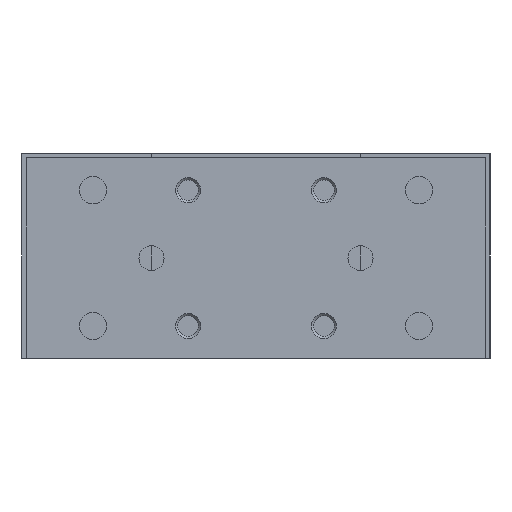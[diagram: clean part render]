
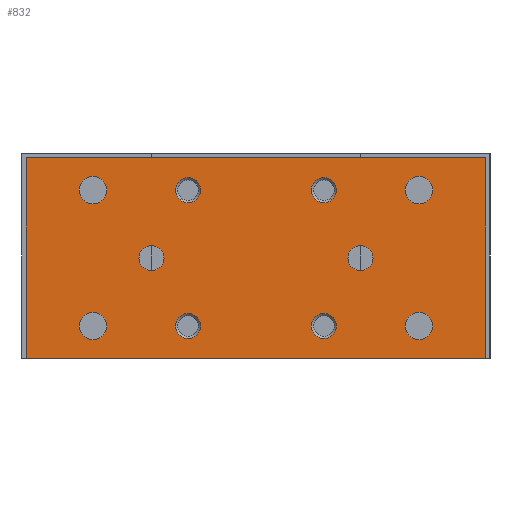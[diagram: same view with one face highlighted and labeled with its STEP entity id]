
A CAD part, left-side view. The second image highlights one B-rep face of the part: STEP entity #832.
In plain terms, the highlighted planar face has unit normal (-1, 0, 0).
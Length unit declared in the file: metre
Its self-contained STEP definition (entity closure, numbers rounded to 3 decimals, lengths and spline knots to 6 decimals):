
#832 = ADVANCED_FACE( '', ( #1889, #1890, #1891, #1892, #1893, #1894, #1895, #1896, #1897, #1898, #1899 ), #1900, .F. );
#1889 = FACE_BOUND( '', #2957, .T. );
#1890 = FACE_BOUND( '', #2958, .T. );
#1891 = FACE_BOUND( '', #2959, .T. );
#1892 = FACE_BOUND( '', #2960, .T. );
#1893 = FACE_BOUND( '', #2961, .T. );
#1894 = FACE_BOUND( '', #2962, .T. );
#1895 = FACE_BOUND( '', #2963, .T. );
#1896 = FACE_BOUND( '', #2964, .T. );
#1897 = FACE_BOUND( '', #2965, .T. );
#1898 = FACE_BOUND( '', #2966, .T. );
#1899 = FACE_OUTER_BOUND( '', #2967, .T. );
#1900 = PLANE( '', #2968 );
#2957 = EDGE_LOOP( '', ( #4809 ) );
#2958 = EDGE_LOOP( '', ( #4810 ) );
#2959 = EDGE_LOOP( '', ( #4811 ) );
#2960 = EDGE_LOOP( '', ( #4812 ) );
#2961 = EDGE_LOOP( '', ( #4813 ) );
#2962 = EDGE_LOOP( '', ( #4814 ) );
#2963 = EDGE_LOOP( '', ( #4815 ) );
#2964 = EDGE_LOOP( '', ( #4816 ) );
#2965 = EDGE_LOOP( '', ( #4817 ) );
#2966 = EDGE_LOOP( '', ( #4818 ) );
#2967 = EDGE_LOOP( '', ( #4819, #4820, #4821, #4822 ) );
#2968 = AXIS2_PLACEMENT_3D( '', #4823, #4824, #4825 );
#4809 = ORIENTED_EDGE( '', *, *, #5189, .T. );
#4810 = ORIENTED_EDGE( '', *, *, #5005, .T. );
#4811 = ORIENTED_EDGE( '', *, *, #4908, .T. );
#4812 = ORIENTED_EDGE( '', *, *, #5008, .T. );
#4813 = ORIENTED_EDGE( '', *, *, #5423, .F. );
#4814 = ORIENTED_EDGE( '', *, *, #5425, .T. );
#4815 = ORIENTED_EDGE( '', *, *, #5511, .T. );
#4816 = ORIENTED_EDGE( '', *, *, #4922, .F. );
#4817 = ORIENTED_EDGE( '', *, *, #4899, .F. );
#4818 = ORIENTED_EDGE( '', *, *, #5055, .T. );
#4819 = ORIENTED_EDGE( '', *, *, #5182, .T. );
#4820 = ORIENTED_EDGE( '', *, *, #5473, .T. );
#4821 = ORIENTED_EDGE( '', *, *, #5144, .T. );
#4822 = ORIENTED_EDGE( '', *, *, #5493, .T. );
#4823 = CARTESIAN_POINT( '', ( -0.07925, -0.055, -0.049 ) );
#4824 = DIRECTION( '', ( 1., 0., 0. ) );
#4825 = DIRECTION( '', ( 0., 1., 0. ) );
#4899 = EDGE_CURVE( '', #5606, #5606, #5607, .T. );
#4908 = EDGE_CURVE( '', #5622, #5622, #5623, .T. );
#4922 = EDGE_CURVE( '', #5645, #5645, #5646, .T. );
#5005 = EDGE_CURVE( '', #5783, #5783, #5784, .T. );
#5008 = EDGE_CURVE( '', #5788, #5788, #5789, .T. );
#5055 = EDGE_CURVE( '', #5864, #5864, #5865, .T. );
#5144 = EDGE_CURVE( '', #6011, #6009, #6012, .T. );
#5182 = EDGE_CURVE( '', #6070, #6068, #6071, .T. );
#5189 = EDGE_CURVE( '', #6081, #6081, #6082, .T. );
#5423 = EDGE_CURVE( '', #6399, #6399, #6400, .T. );
#5425 = EDGE_CURVE( '', #6402, #6402, #6403, .T. );
#5473 = EDGE_CURVE( '', #6068, #6011, #6455, .T. );
#5493 = EDGE_CURVE( '', #6009, #6070, #6472, .T. );
#5511 = EDGE_CURVE( '', #6491, #6491, #6492, .T. );
#5606 = VERTEX_POINT( '', #6605 );
#5607 = CIRCLE( '', #6606, 0.003 );
#5622 = VERTEX_POINT( '', #6625 );
#5623 = CIRCLE( '', #6626, 0.0033 );
#5645 = VERTEX_POINT( '', #6651 );
#5646 = CIRCLE( '', #6652, 0.003 );
#5783 = VERTEX_POINT( '', #6821 );
#5784 = CIRCLE( '', #6822, 0.0033 );
#5788 = VERTEX_POINT( '', #6826 );
#5789 = CIRCLE( '', #6827, 0.0033 );
#5864 = VERTEX_POINT( '', #6948 );
#5865 = CIRCLE( '', #6949, 0.003 );
#6009 = VERTEX_POINT( '', #7113 );
#6011 = VERTEX_POINT( '', #7116 );
#6012 = LINE( '', #7117, #7118 );
#6068 = VERTEX_POINT( '', #7215 );
#6070 = VERTEX_POINT( '', #7218 );
#6071 = LINE( '', #7219, #7220 );
#6081 = VERTEX_POINT( '', #7264 );
#6082 = CIRCLE( '', #7265, 0.0033 );
#6399 = VERTEX_POINT( '', #7734 );
#6400 = CIRCLE( '', #7735, 0.003 );
#6402 = VERTEX_POINT( '', #7737 );
#6403 = CIRCLE( '', #7738, 0.003 );
#6455 = LINE( '', #7796, #7797 );
#6472 = LINE( '', #7814, #7815 );
#6491 = VERTEX_POINT( '', #7834 );
#6492 = CIRCLE( '', #7835, 0.003 );
#6605 = CARTESIAN_POINT( '', ( -0.07925, -0.01325, -0.00875 ) );
#6606 = AXIS2_PLACEMENT_3D( '', #7923, #7924, #7925 );
#6625 = CARTESIAN_POINT( '', ( -0.07925, -0.0357, -0.00875 ) );
#6626 = AXIS2_PLACEMENT_3D( '', #7936, #7937, #7938 );
#6651 = CARTESIAN_POINT( '', ( -0.07925, 0.01325, -0.04125 ) );
#6652 = AXIS2_PLACEMENT_3D( '', #7960, #7961, #7962 );
#6821 = CARTESIAN_POINT( '', ( -0.07925, 0.0423, -0.04125 ) );
#6822 = AXIS2_PLACEMENT_3D( '', #8073, #8074, #8075 );
#6826 = CARTESIAN_POINT( '', ( -0.07925, 0.0423, -0.00875 ) );
#6827 = AXIS2_PLACEMENT_3D( '', #8079, #8080, #8081 );
#6948 = CARTESIAN_POINT( '', ( -0.07925, 0.01325, -0.00875 ) );
#6949 = AXIS2_PLACEMENT_3D( '', #8152, #8153, #8154 );
#7113 = CARTESIAN_POINT( '', ( -0.07925, 0.055, -0.049 ) );
#7116 = CARTESIAN_POINT( '', ( -0.07925, 0.055, -0.001 ) );
#7117 = CARTESIAN_POINT( '', ( -0.07925, 0.055, -0.001 ) );
#7118 = VECTOR( '', #8302, 1. );
#7215 = CARTESIAN_POINT( '', ( -0.07925, -0.055, -0.001 ) );
#7218 = CARTESIAN_POINT( '', ( -0.07925, -0.055, -0.049 ) );
#7219 = CARTESIAN_POINT( '', ( -0.07925, -0.055, -0.049 ) );
#7220 = VECTOR( '', #8354, 1. );
#7264 = CARTESIAN_POINT( '', ( -0.07925, -0.0357, -0.04125 ) );
#7265 = AXIS2_PLACEMENT_3D( '', #8362, #8363, #8364 );
#7734 = CARTESIAN_POINT( '', ( -0.07925, -0.025, -0.022 ) );
#7735 = AXIS2_PLACEMENT_3D( '', #8610, #8611, #8612 );
#7737 = CARTESIAN_POINT( '', ( -0.07925, 0.025, -0.022 ) );
#7738 = AXIS2_PLACEMENT_3D( '', #8613, #8614, #8615 );
#7796 = CARTESIAN_POINT( '', ( -0.07925, -0.055, -0.001 ) );
#7797 = VECTOR( '', #8640, 1. );
#7814 = CARTESIAN_POINT( '', ( -0.07925, 0.055, -0.049 ) );
#7815 = VECTOR( '', #8641, 1. );
#7834 = CARTESIAN_POINT( '', ( -0.07925, -0.01325, -0.04125 ) );
#7835 = AXIS2_PLACEMENT_3D( '', #8648, #8649, #8650 );
#7923 = CARTESIAN_POINT( '', ( -0.07925, -0.01625, -0.00875 ) );
#7924 = DIRECTION( '', ( -1., 0., 0. ) );
#7925 = DIRECTION( '', ( 0., 1., 0. ) );
#7936 = CARTESIAN_POINT( '', ( -0.07925, -0.039, -0.00875 ) );
#7937 = DIRECTION( '', ( 1., 0., 0. ) );
#7938 = DIRECTION( '', ( 0., 1., 0. ) );
#7960 = CARTESIAN_POINT( '', ( -0.07925, 0.01625, -0.04125 ) );
#7961 = DIRECTION( '', ( -1., 0., 0. ) );
#7962 = DIRECTION( '', ( 0., -1., 0. ) );
#8073 = CARTESIAN_POINT( '', ( -0.07925, 0.039, -0.04125 ) );
#8074 = DIRECTION( '', ( 1., 0., 0. ) );
#8075 = DIRECTION( '', ( 0., 1., 0. ) );
#8079 = CARTESIAN_POINT( '', ( -0.07925, 0.039, -0.00875 ) );
#8080 = DIRECTION( '', ( 1., 0., 0. ) );
#8081 = DIRECTION( '', ( 0., 1., 0. ) );
#8152 = CARTESIAN_POINT( '', ( -0.07925, 0.01625, -0.00875 ) );
#8153 = DIRECTION( '', ( 1., 0., 0. ) );
#8154 = DIRECTION( '', ( 0., -1., 0. ) );
#8302 = DIRECTION( '', ( 0., 0., -1. ) );
#8354 = DIRECTION( '', ( 0., 0., 1. ) );
#8362 = CARTESIAN_POINT( '', ( -0.07925, -0.039, -0.04125 ) );
#8363 = DIRECTION( '', ( 1., 0., 0. ) );
#8364 = DIRECTION( '', ( 0., 1., 0. ) );
#8610 = CARTESIAN_POINT( '', ( -0.07925, -0.025, -0.025 ) );
#8611 = DIRECTION( '', ( -1., 0., 0. ) );
#8612 = DIRECTION( '', ( 0., 0., 1. ) );
#8613 = CARTESIAN_POINT( '', ( -0.07925, 0.025, -0.025 ) );
#8614 = DIRECTION( '', ( 1., 0., 0. ) );
#8615 = DIRECTION( '', ( 0., 0., 1. ) );
#8640 = DIRECTION( '', ( 0., 1., 0. ) );
#8641 = DIRECTION( '', ( 0., -1., 0. ) );
#8648 = CARTESIAN_POINT( '', ( -0.07925, -0.01625, -0.04125 ) );
#8649 = DIRECTION( '', ( 1., 0., 0. ) );
#8650 = DIRECTION( '', ( 0., 1., 0. ) );
